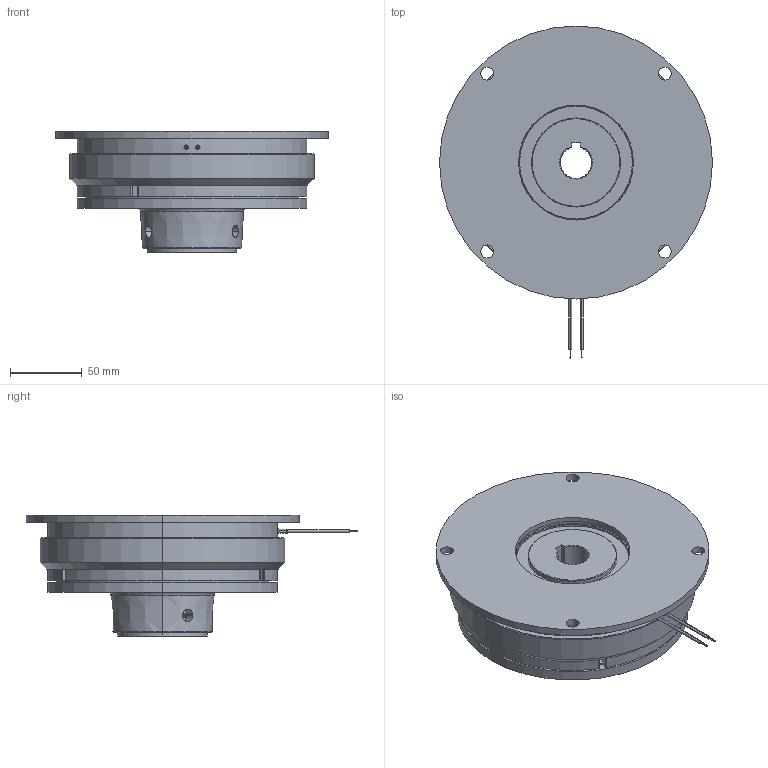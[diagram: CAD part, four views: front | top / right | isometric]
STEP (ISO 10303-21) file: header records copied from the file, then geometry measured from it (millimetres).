
FILE_DESCRIPTION (( 'STEP AP214' ), '1' );
FILE_NAME ('dr_bk_1003-130_mu.STEP', '2021-11-17T09:00:07', ( '' ), ( '' ), 'SwSTEP 2.0', 'SolidWorks 2019', '' );
FILE_SCHEMA (( 'AUTOMOTIVE_DESIGN' ));
Length unit declared in the file: millimetre
Products named in the file (12): 10069151_000; 10068865_000; 10069133_000; 10068864_000_Einbaul„nge 5,7mm; 10069152_000; 10068866_000; 10068864_000_Einbaul„nge 5,6mm; 10068863_000; 10069166_000_M 10 x 16; dr_bk_1003-130_mu; 10068862_000; 10069120_000
Assembly tree (21 placements, depth 4):
  dr_bk_1003-130_mu
    10069120_000
    10069133_000
    10069151_000
      10069152_000
      10068866_000
        10068863_000
        10068862_000
        10068864_000_Einbaul„nge 5,6mm  x3
        10068865_000  x3
      10068864_000_Einbaul„nge 5,7mm  x3
      10068865_000  x3
      10069166_000_M 10 x 16  x2
Bounding box: 190 x 231 x 84.7 mm (x, y, z)
Volume: 1133915 mm3; surface area: 256223 mm2
Topology: 21 solids, 21 shells, 645 faces, 1543 edges, 970 vertices
Faces by surface type: cylinder 203, plane 181, cone 112, bspline 111, torus 26, sphere 12
Entity records: 24555 total; most frequent: CARTESIAN_POINT 10877, ORIENTED_EDGE 2526, DIRECTION 2279, EDGE_CURVE 1263, AXIS2_PLACEMENT_3D 835, VERTEX_POINT 813, EDGE_LOOP 624, VECTOR 609
